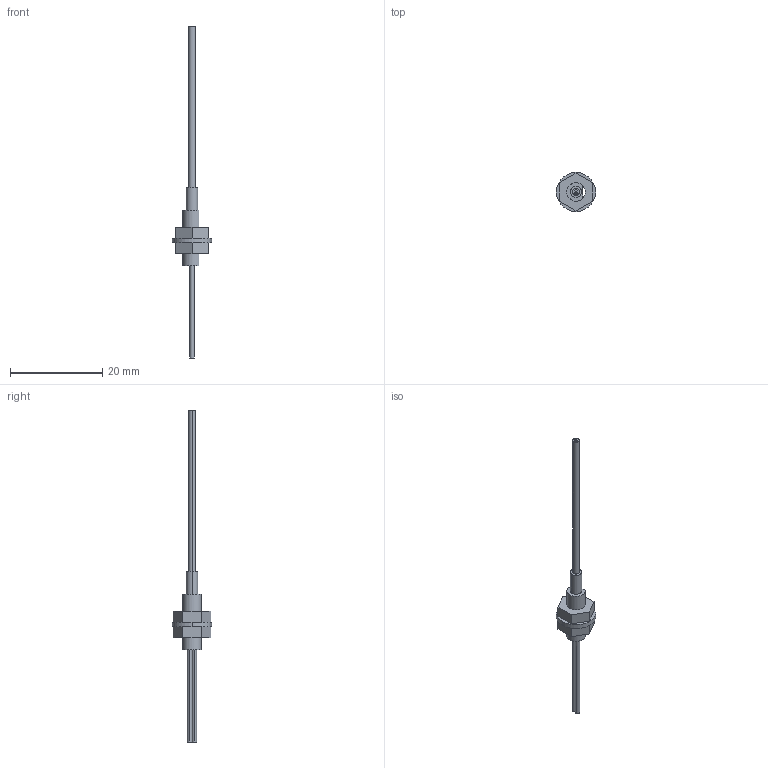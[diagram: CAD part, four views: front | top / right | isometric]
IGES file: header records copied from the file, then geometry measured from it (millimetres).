
Start section: SolidWorks IGES FILE using analytic representation for surfaces
Global section: file name: \\intra-srv04\開発データ\CAD_Data\CAD委員会\3D電子ｶﾀﾛｸﾞ\製品カタログ（新）\0_IGES\FD-W44.IGS,41HSolidWorks 2004; native system: by SolidWorks Corporation; preprocessor: Version 5.3; author: mf1158; date: 050905.155644; units: millimetre
Bounding box: 8.5 x 8.5 x 72 mm (x, y, z)
Volume: 443.6 mm3; surface area: 923 mm2
Topology: 4 solids, 4 shells, 48 faces, 102 edges, 68 vertices
Faces by surface type: plane 27, revolution 21
